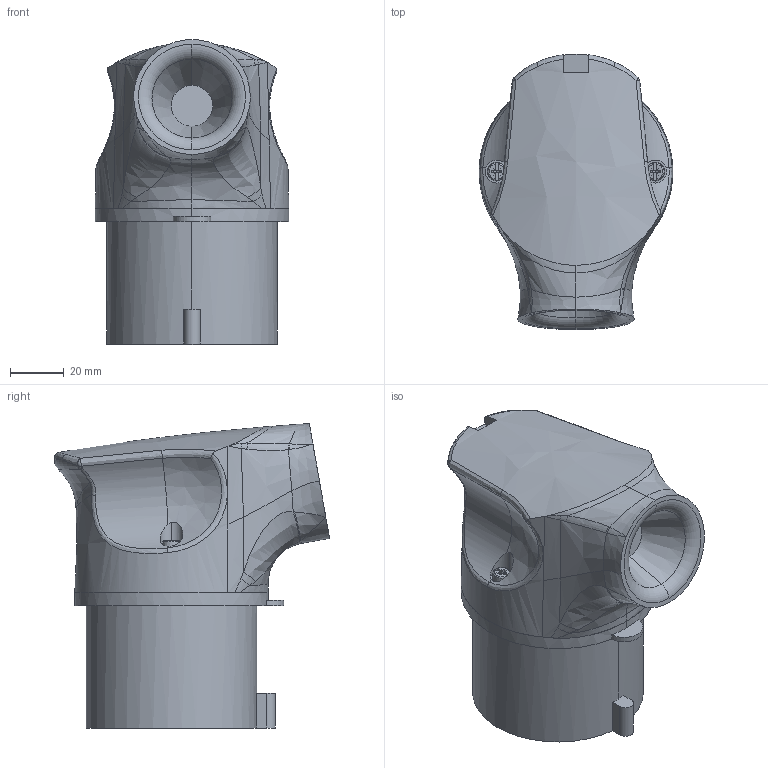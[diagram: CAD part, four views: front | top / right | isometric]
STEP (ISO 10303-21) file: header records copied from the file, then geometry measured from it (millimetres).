
FILE_DESCRIPTION((''),'2;1');
FILE_NAME('1108973_ASM_SW0001','2018-01-25T',('gisse'),('MENNEKES'),'PRO/ENGINEER BY PARAMETRIC TECHNOLOGY CORPORATION, 2015440','PRO/ENGINEER BY PARAMETRIC TECHNOLOGY CORPORATION, 2015440','');
FILE_SCHEMA(('AUTOMOTIVE_DESIGN { 1 0 10303 214 1 1 1 1 }'));
Length unit declared in the file: millimetre
Products named in the file (1): 1108973_ASM_SW0001
Bounding box: 72 x 102.31 x 113.45 mm (x, y, z)
Volume: 299505 mm3; surface area: 46971 mm2
Topology: 1 solids, 1 shells, 224 faces, 542 edges, 334 vertices
Faces by surface type: plane 88, bspline 75, cylinder 24, torus 18, cone 17, sphere 2
Entity records: 14251 total; most frequent: CARTESIAN_POINT 5413, ORIENTED_EDGE 1084, DIRECTION 840, PRESENTATION_STYLE_ASSIGNMENT 742, STYLED_ITEM 543, CURVE_STYLE 542, EDGE_CURVE 542, VERTEX_POINT 334
